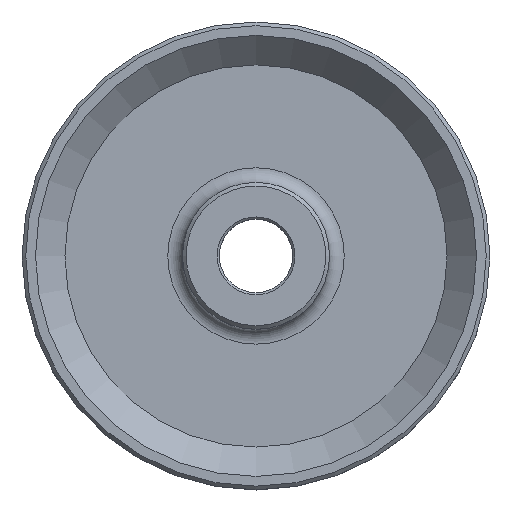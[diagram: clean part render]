
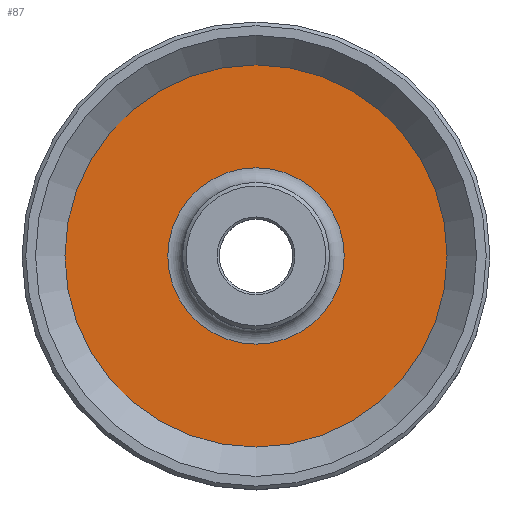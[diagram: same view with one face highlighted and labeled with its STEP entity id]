
A CAD part, top view. The second image highlights one B-rep face of the part: STEP entity #87.
In plain terms, the highlighted planar face has unit normal (0, 0, 1).
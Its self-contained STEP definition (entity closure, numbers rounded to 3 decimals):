
#87 = ADVANCED_FACE( '', ( #142, #143 ), #144, .T. );
#142 = FACE_BOUND( '', #235, .T. );
#143 = FACE_OUTER_BOUND( '', #236, .T. );
#144 = PLANE( '', #237 );
#235 = EDGE_LOOP( '', ( #369 ) );
#236 = EDGE_LOOP( '', ( #370 ) );
#237 = AXIS2_PLACEMENT_3D( '', #371, #372, #373 );
#369 = ORIENTED_EDGE( '', *, *, #509, .T. );
#370 = ORIENTED_EDGE( '', *, *, #510, .F. );
#371 = CARTESIAN_POINT( '', ( 0., 26., 8. ) );
#372 = DIRECTION( '', ( 0., 0., 1. ) );
#373 = DIRECTION( '', ( 1., 0., 0. ) );
#509 = EDGE_CURVE( '', #574, #574, #575, .T. );
#510 = EDGE_CURVE( '', #576, #576, #577, .T. );
#574 = VERTEX_POINT( '', #780 );
#575 = CIRCLE( '', #781, 12. );
#576 = VERTEX_POINT( '', #782 );
#577 = CIRCLE( '', #783, 26. );
#780 = CARTESIAN_POINT( '', ( -12., 0., 8. ) );
#781 = AXIS2_PLACEMENT_3D( '', #857, #858, #859 );
#782 = CARTESIAN_POINT( '', ( -26., 0., 8. ) );
#783 = AXIS2_PLACEMENT_3D( '', #860, #861, #862 );
#857 = CARTESIAN_POINT( '', ( 0., 0., 8. ) );
#858 = DIRECTION( '', ( 0., 0., -1. ) );
#859 = DIRECTION( '', ( -1., 0., 0. ) );
#860 = CARTESIAN_POINT( '', ( 0., 0., 8. ) );
#861 = DIRECTION( '', ( 0., 0., -1. ) );
#862 = DIRECTION( '', ( -1., 0., 0. ) );
